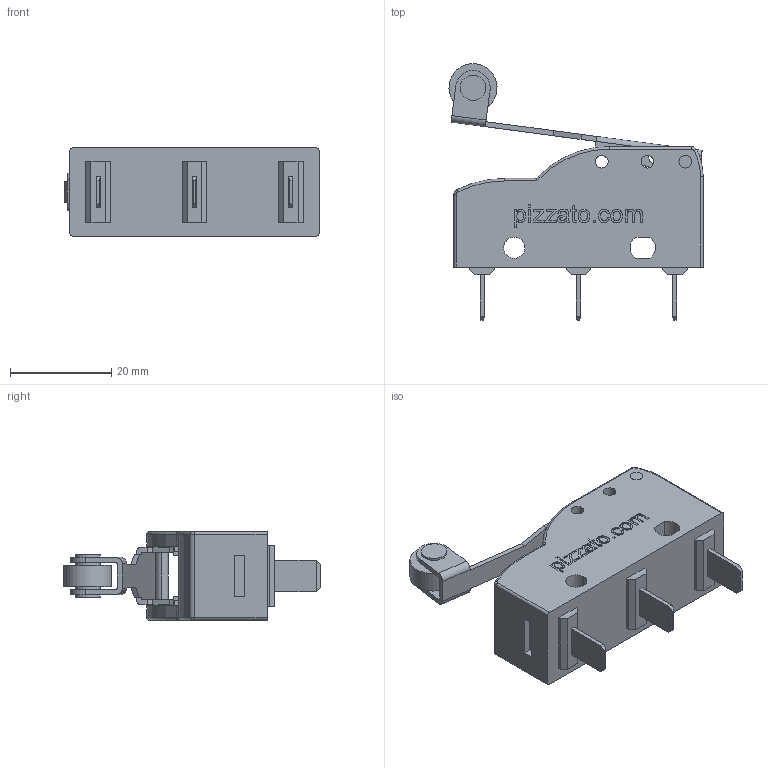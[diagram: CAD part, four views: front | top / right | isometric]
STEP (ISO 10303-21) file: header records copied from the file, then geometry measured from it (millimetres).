
FILE_DESCRIPTION (( 'STEP AP203' ), '1' );
FILE_NAME ('Pizzato_MK_HxxF42.STEP', '2009-02-13T16:50:15', ( 'mario' ), ( '' ), 'SwSTEP 2.0', 'SolidWorks 2009', '' );
FILE_SCHEMA (( 'CONFIG_CONTROL_DESIGN' ));
Length unit declared in the file: millimetre
Products named in the file (4): Pizzato_Custodia_MK_MKH_Leva; Pizzato_Perno Leva; Pizzato_MK_HxxF42; Pizzato_Leva_MK42_MK42
Assembly tree (3 placements, depth 2):
  Pizzato_MK_HxxF42
    Pizzato_Perno Leva
    Pizzato_Leva_MK42_MK42
    Pizzato_Custodia_MK_MKH_Leva
Bounding box: 50.18 x 50.67 x 17.4 mm (x, y, z)
Volume: 16555.7 mm3; surface area: 7631.3 mm2
Topology: 3 solids, 3 shells, 482 faces, 1268 edges, 834 vertices
Faces by surface type: plane 306, cylinder 97, bspline 69, torus 10
Entity records: 18582 total; most frequent: CARTESIAN_POINT 6489, ORIENTED_EDGE 2536, DIRECTION 2172, EDGE_CURVE 1268, LINE 922, VECTOR 922, VERTEX_POINT 834, AXIS2_PLACEMENT_3D 625
